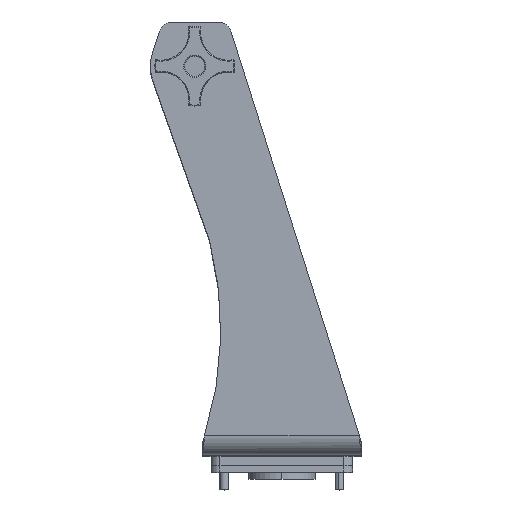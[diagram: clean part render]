
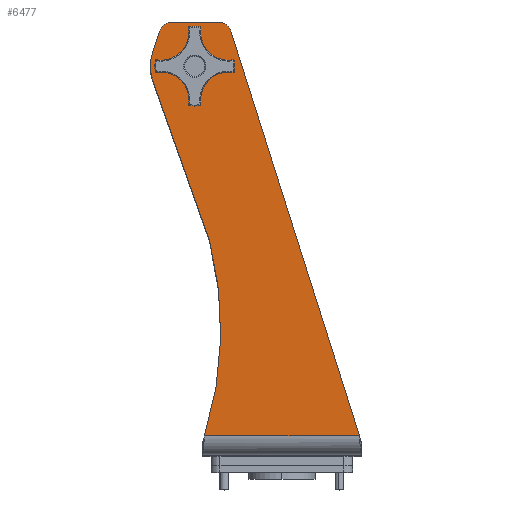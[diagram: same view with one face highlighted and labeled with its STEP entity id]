
A CAD part, top view. The second image highlights one B-rep face of the part: STEP entity #6477.
In plain terms, the highlighted planar face has unit normal (0, 0, 1) as drawn and (-1, 0, 0) by its records, which use the part's own axes.
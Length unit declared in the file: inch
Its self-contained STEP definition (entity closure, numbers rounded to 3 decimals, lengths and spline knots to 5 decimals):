
#536 = DIRECTION ( 'NONE',  ( 1., 0., 0. ) ) ;
#673 = DIRECTION ( 'NONE',  ( 0., -0.953, 0.303 ) ) ;
#1006 = AXIS2_PLACEMENT_3D ( 'NONE', #15140, #13288, #11451 ) ;
#1711 = VECTOR ( 'NONE', #5379, 39.37008 ) ;
#1930 = CARTESIAN_POINT ( 'NONE',  ( -11.0625, 0.563, -11.72649 ) ) ;
#2291 = VERTEX_POINT ( 'NONE', #18241 ) ;
#2463 = DIRECTION ( 'NONE',  ( 1., 0., 0. ) ) ;
#2763 = EDGE_CURVE ( 'NONE', #16306, #4475, #18530, .T. ) ;
#3000 = CARTESIAN_POINT ( 'NONE',  ( -11.0625, 10.63847, -3.6619 ) ) ;
#3284 = LINE ( 'NONE', #20297, #18319 ) ;
#3877 = CIRCLE ( 'NONE', #15206, 0.37474 ) ;
#4253 = ORIENTED_EDGE ( 'NONE', *, *, #13076, .F. ) ;
#4475 = VERTEX_POINT ( 'NONE', #8850 ) ;
#4532 = VERTEX_POINT ( 'NONE', #15210 ) ;
#4759 = CARTESIAN_POINT ( 'NONE',  ( -11.0625, 3.56814, -11.72649 ) ) ;
#4818 = AXIS2_PLACEMENT_3D ( 'NONE', #15413, #2463, #22665 ) ;
#4825 = CARTESIAN_POINT ( 'NONE',  ( -11.0625, 12.25, -3.10022 ) ) ;
#4878 = CIRCLE ( 'NONE', #15046, 0.1955 ) ;
#4930 = CARTESIAN_POINT ( 'NONE',  ( -11.0625, 11.1955, -2.46533 ) ) ;
#5121 = DIRECTION ( 'NONE',  ( 0., 1., 0. ) ) ;
#5348 = DIRECTION ( 'NONE',  ( 0., 0.951, 0.31 ) ) ;
#5379 = DIRECTION ( 'NONE',  ( 0., 0., 1. ) ) ;
#5662 = VERTEX_POINT ( 'NONE', #7062 ) ;
#5869 = VECTOR ( 'NONE', #12387, 39.37008 ) ;
#5938 = VERTEX_POINT ( 'NONE', #23009 ) ;
#6143 = DIRECTION ( 'NONE',  ( 0., -1., 0. ) ) ;
#6299 = CARTESIAN_POINT ( 'NONE',  ( -11.0625, 0.563, -2.18872 ) ) ;
#6477 = ADVANCED_FACE ( 'NONE', ( #24141, #22419 ), #14554, .T. ) ;
#6870 = EDGE_CURVE ( 'NONE', #21359, #4532, #3284, .T. ) ;
#7062 = CARTESIAN_POINT ( 'NONE',  ( -11.0625, 0.563, 2.1903 ) ) ;
#7356 = ORIENTED_EDGE ( 'NONE', *, *, #24067, .F. ) ;
#7572 = AXIS2_PLACEMENT_3D ( 'NONE', #4759, #16146, #19600 ) ;
#8032 = CIRCLE ( 'NONE', #9976, 0.37474 ) ;
#8835 = CARTESIAN_POINT ( 'NONE',  ( -11.0625, 10.63847, -3.6619 ) ) ;
#8850 = CARTESIAN_POINT ( 'NONE',  ( -11.0625, 6.07712, -2.04636 ) ) ;
#9391 = DIRECTION ( 'NONE',  ( 0., 1., 0. ) ) ;
#9951 = DIRECTION ( 'NONE',  ( 0., -1., 0. ) ) ;
#9976 = AXIS2_PLACEMENT_3D ( 'NONE', #17260, #536, #6143 ) ;
#10011 = ORIENTED_EDGE ( 'NONE', *, *, #16390, .F. ) ;
#10172 = LINE ( 'NONE', #15689, #22526 ) ;
#10210 = ORIENTED_EDGE ( 'NONE', *, *, #2763, .F. ) ;
#10629 = ORIENTED_EDGE ( 'NONE', *, *, #23940, .F. ) ;
#11078 = VERTEX_POINT ( 'NONE', #4825 ) ;
#11451 = DIRECTION ( 'NONE',  ( 0., 1., 0. ) ) ;
#11994 = EDGE_LOOP ( 'NONE', ( #10210, #21381, #7356, #10011, #4253, #10629, #16217, #15893, #17211 ) ) ;
#12255 = CARTESIAN_POINT ( 'NONE',  ( -11.0625, 10.8045, -2.46533 ) ) ;
#12387 = DIRECTION ( 'NONE',  ( 0., 0.943, -0.334 ) ) ;
#13025 = CIRCLE ( 'NONE', #4818, 1.25 ) ;
#13076 = EDGE_CURVE ( 'NONE', #11078, #2291, #22174, .T. ) ;
#13288 = DIRECTION ( 'NONE',  ( 1., 0., 0. ) ) ;
#13876 = VECTOR ( 'NONE', #24202, 39.37008 ) ;
#14554 = PLANE ( 'NONE',  #16048 ) ;
#14795 = CARTESIAN_POINT ( 'NONE',  ( -11.0625, 3.56814, -11.72649 ) ) ;
#15046 = AXIS2_PLACEMENT_3D ( 'NONE', #16392, #18097, #5121 ) ;
#15140 = CARTESIAN_POINT ( 'NONE',  ( -11.0625, 11., -2.46533 ) ) ;
#15206 = AXIS2_PLACEMENT_3D ( 'NONE', #19409, #23099, #9951 ) ;
#15210 = CARTESIAN_POINT ( 'NONE',  ( -11.0625, 11.98365, -3.45894 ) ) ;
#15413 = CARTESIAN_POINT ( 'NONE',  ( -11.0625, 11., -2.46533 ) ) ;
#15488 = ORIENTED_EDGE ( 'NONE', *, *, #21078, .T. ) ;
#15572 = VERTEX_POINT ( 'NONE', #12255 ) ;
#15689 = CARTESIAN_POINT ( 'NONE',  ( -11.0625, 11.96547, -1.43079 ) ) ;
#15893 = ORIENTED_EDGE ( 'NONE', *, *, #19860, .F. ) ;
#16048 = AXIS2_PLACEMENT_3D ( 'NONE', #14795, #22175, #9391 ) ;
#16146 = DIRECTION ( 'NONE',  ( -1., 0., 0. ) ) ;
#16217 = ORIENTED_EDGE ( 'NONE', *, *, #6870, .F. ) ;
#16306 = VERTEX_POINT ( 'NONE', #6299 ) ;
#16390 = EDGE_CURVE ( 'NONE', #2291, #5938, #3877, .T. ) ;
#16392 = CARTESIAN_POINT ( 'NONE',  ( -11.0625, 11., -2.46533 ) ) ;
#16498 = VERTEX_POINT ( 'NONE', #4930 ) ;
#17211 = ORIENTED_EDGE ( 'NONE', *, *, #17326, .F. ) ;
#17260 = CARTESIAN_POINT ( 'NONE',  ( -11.0625, 11.87526, -3.10022 ) ) ;
#17326 = EDGE_CURVE ( 'NONE', #4475, #20596, #18264, .T. ) ;
#18097 = DIRECTION ( 'NONE',  ( 1., 0., 0. ) ) ;
#18147 = CIRCLE ( 'NONE', #1006, 0.1955 ) ;
#18241 = CARTESIAN_POINT ( 'NONE',  ( -11.0625, 12.25, -1.79451 ) ) ;
#18264 = LINE ( 'NONE', #3000, #5869 ) ;
#18319 = VECTOR ( 'NONE', #5348, 39.37008 ) ;
#18530 = CIRCLE ( 'NONE', #7572, 10. ) ;
#18823 = ORIENTED_EDGE ( 'NONE', *, *, #23380, .T. ) ;
#19368 = EDGE_LOOP ( 'NONE', ( #18823, #15488 ) ) ;
#19409 = CARTESIAN_POINT ( 'NONE',  ( -11.0625, 11.87526, -1.79451 ) ) ;
#19600 = DIRECTION ( 'NONE',  ( 0., -1., 0. ) ) ;
#19860 = EDGE_CURVE ( 'NONE', #20596, #21359, #13025, .T. ) ;
#19967 = CARTESIAN_POINT ( 'NONE',  ( -11.0625, 12.25, -1.79451 ) ) ;
#20297 = CARTESIAN_POINT ( 'NONE',  ( -11.0625, 11.36153, -3.6619 ) ) ;
#20596 = VERTEX_POINT ( 'NONE', #8835 ) ;
#21078 = EDGE_CURVE ( 'NONE', #15572, #16498, #18147, .T. ) ;
#21359 = VERTEX_POINT ( 'NONE', #21989 ) ;
#21381 = ORIENTED_EDGE ( 'NONE', *, *, #23191, .T. ) ;
#21989 = CARTESIAN_POINT ( 'NONE',  ( -11.0625, 11.36153, -3.6619 ) ) ;
#22174 = LINE ( 'NONE', #19967, #1711 ) ;
#22175 = DIRECTION ( 'NONE',  ( -1., 0., 0. ) ) ;
#22419 = FACE_OUTER_BOUND ( 'NONE', #11994, .T. ) ;
#22526 = VECTOR ( 'NONE', #673, 39.37008 ) ;
#22665 = DIRECTION ( 'NONE',  ( 0., -1., 0. ) ) ;
#23009 = CARTESIAN_POINT ( 'NONE',  ( -11.0625, 11.96547, -1.43079 ) ) ;
#23099 = DIRECTION ( 'NONE',  ( 1., 0., 0. ) ) ;
#23191 = EDGE_CURVE ( 'NONE', #16306, #5662, #23614, .T. ) ;
#23380 = EDGE_CURVE ( 'NONE', #16498, #15572, #4878, .T. ) ;
#23614 = LINE ( 'NONE', #1930, #13876 ) ;
#23940 = EDGE_CURVE ( 'NONE', #4532, #11078, #8032, .T. ) ;
#24067 = EDGE_CURVE ( 'NONE', #5938, #5662, #10172, .T. ) ;
#24141 = FACE_BOUND ( 'NONE', #19368, .T. ) ;
#24202 = DIRECTION ( 'NONE',  ( 0., 0., 1. ) ) ;
